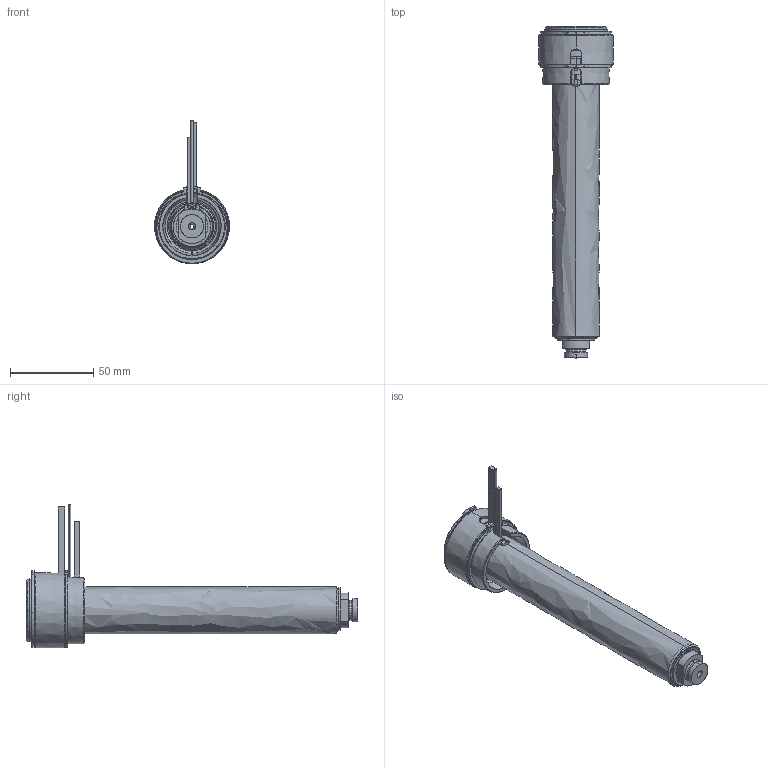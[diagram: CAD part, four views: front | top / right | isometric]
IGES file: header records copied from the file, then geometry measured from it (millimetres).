
Start section: SolidWorks IGES file using analytic representation for surfaces
Global section: file name: C:\Documents and Settings\ws-20\Desktop\TEM\UGBE4504-M-A-5 [Ød-2.5 P-0 ØC-10].IGS; native system: SolidWorks 2012; preprocessor: SolidWorks 2012; author: ws-20; date: 120412.154823; units: millimetre
Bounding box: 45 x 199.25 x 86.15 mm (x, y, z)
Surface area: 68171.8 mm2 (no closed solid volume)
Topology: 0 solids, 0 shells, 162 faces, 3019 edges, 3019 vertices
Faces by surface type: revolution 98, bspline 64
